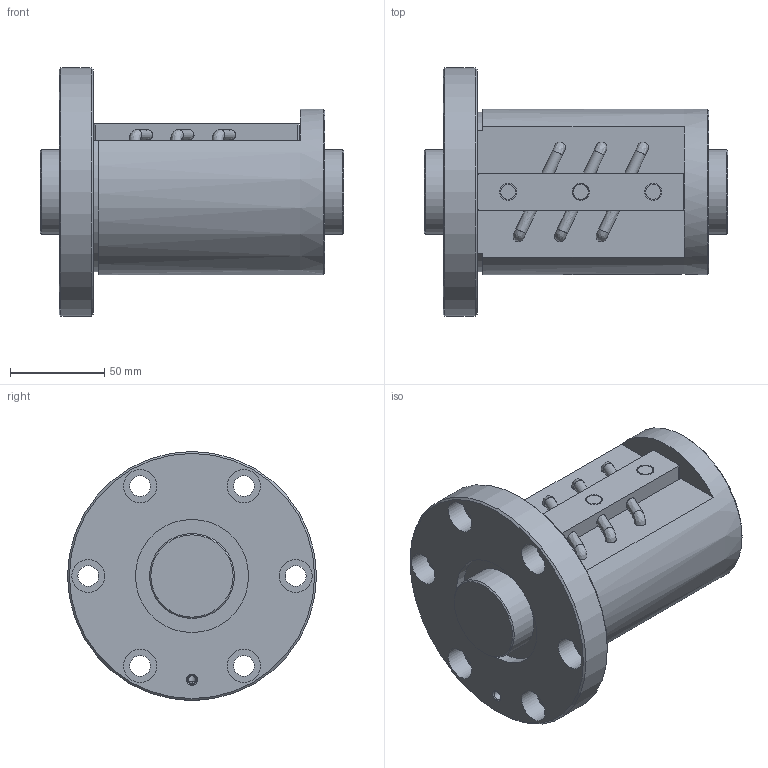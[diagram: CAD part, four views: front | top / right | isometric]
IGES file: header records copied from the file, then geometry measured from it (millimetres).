
Start section: Data from Parasolid IGES Translator 26.0.171, Copyright(c) 2006 Siemens PLM Software. All Rights Reserved.
Global section: file name: BNF4510V-7.5RRG1+161LC0_000_rev.igs; native system: By Siemens PLM Incorporated; preprocessor: XPlus GENERIC/IGES 26.0.171; author: Noname; organization: Noname; date: 20240806.085506; units: millimetre
Bounding box: 161 x 132 x 132 mm (x, y, z)
Surface area: 121327.2 mm2 (no closed solid volume)
Topology: 0 solids, 0 shells, 86 faces, 428 edges, 388 vertices
Faces by surface type: revolution 56, extrusion 30
